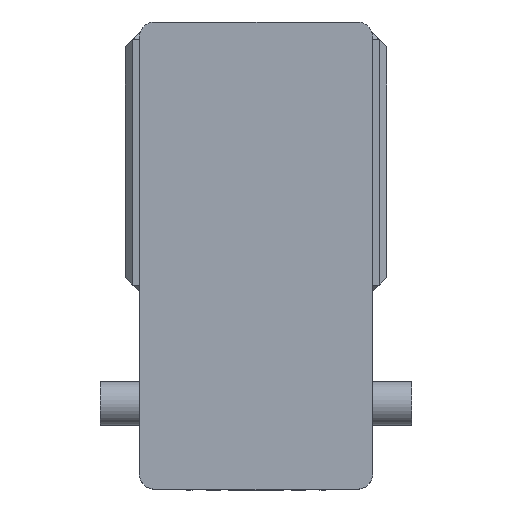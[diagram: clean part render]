
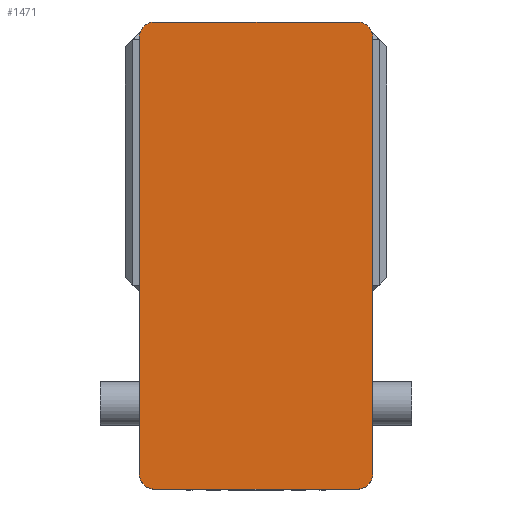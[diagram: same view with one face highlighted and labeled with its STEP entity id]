
A CAD part, left-side view. The second image highlights one B-rep face of the part: STEP entity #1471.
In plain terms, the highlighted planar face has unit normal (-1, 0, 0) as drawn and (0, 0, 1) by its records, which use the part's own axes.
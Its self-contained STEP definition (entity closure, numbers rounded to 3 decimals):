
#5 = CARTESIAN_POINT ( 'NONE',  ( -65., 140., 105. ) ) ;
#160 = DIRECTION ( 'NONE',  ( 1., 0., 0. ) ) ;
#166 = DIRECTION ( 'NONE',  ( 0., 0., 1. ) ) ;
#180 = CARTESIAN_POINT ( 'NONE',  ( 65., 140., 105. ) ) ;
#260 = DIRECTION ( 'NONE',  ( 1., 0., 0. ) ) ;
#282 = DIRECTION ( 'NONE',  ( 0., 0., 1. ) ) ;
#284 = CARTESIAN_POINT ( 'NONE',  ( 65., -140., 105. ) ) ;
#449 = VERTEX_POINT ( 'NONE', #8867 ) ;
#525 = CARTESIAN_POINT ( 'NONE',  ( -75., -150., 105. ) ) ;
#565 = CARTESIAN_POINT ( 'NONE',  ( 65., 150., 105. ) ) ;
#743 = DIRECTION ( 'NONE',  ( 1., 0., 0. ) ) ;
#775 = ORIENTED_EDGE ( 'NONE', *, *, #5308, .T. ) ;
#1184 = DIRECTION ( 'NONE',  ( 0., -1., 0. ) ) ;
#1223 = CARTESIAN_POINT ( 'NONE',  ( -75., 150., 105. ) ) ;
#1403 = CIRCLE ( 'NONE', #10471, 10. ) ;
#1408 = DIRECTION ( 'NONE',  ( 1., 0., 0. ) ) ;
#1471 = ADVANCED_FACE ( 'NONE', ( #1537 ), #2580, .T. ) ;
#1536 = CARTESIAN_POINT ( 'NONE',  ( -75., -140., 105. ) ) ;
#1537 = FACE_OUTER_BOUND ( 'NONE', #2010, .T. ) ;
#1646 = DIRECTION ( 'NONE',  ( 0., 1., 0. ) ) ;
#1686 = CARTESIAN_POINT ( 'NONE',  ( 75., 150., 105. ) ) ;
#1989 = AXIS2_PLACEMENT_3D ( 'NONE', #180, #166, #160 ) ;
#2010 = EDGE_LOOP ( 'NONE', ( #9928, #10359, #2272, #775, #5255, #4389, #2967, #6806 ) ) ;
#2194 = CIRCLE ( 'NONE', #10456, 10. ) ;
#2272 = ORIENTED_EDGE ( 'NONE', *, *, #7477, .T. ) ;
#2517 = CARTESIAN_POINT ( 'NONE',  ( 0., 0., 105. ) ) ;
#2580 = PLANE ( 'NONE',  #5503 ) ;
#2593 = DIRECTION ( 'NONE',  ( 1., 0., 0. ) ) ;
#2595 = DIRECTION ( 'NONE',  ( 0., 0., 1. ) ) ;
#2723 = CIRCLE ( 'NONE', #1989, 10. ) ;
#2967 = ORIENTED_EDGE ( 'NONE', *, *, #5224, .T. ) ;
#3009 = CARTESIAN_POINT ( 'NONE',  ( 65., -150., 105. ) ) ;
#3302 = VERTEX_POINT ( 'NONE', #8617 ) ;
#3412 = CIRCLE ( 'NONE', #10480, 10. ) ;
#3842 = VECTOR ( 'NONE', #743, 1000. ) ;
#3972 = LINE ( 'NONE', #525, #3842 ) ;
#4170 = CARTESIAN_POINT ( 'NONE',  ( -65., -140., 105. ) ) ;
#4330 = CARTESIAN_POINT ( 'NONE',  ( -75., 140., 105. ) ) ;
#4389 = ORIENTED_EDGE ( 'NONE', *, *, #5323, .T. ) ;
#4409 = DIRECTION ( 'NONE',  ( 1., 0., 0. ) ) ;
#4689 = DIRECTION ( 'NONE',  ( 0., 0., 1. ) ) ;
#5169 = DIRECTION ( 'NONE',  ( 0., 0., 1. ) ) ;
#5224 = EDGE_CURVE ( 'NONE', #10362, #7034, #7773, .T. ) ;
#5255 = ORIENTED_EDGE ( 'NONE', *, *, #7278, .T. ) ;
#5283 = CARTESIAN_POINT ( 'NONE',  ( 75., 140., 105. ) ) ;
#5287 = EDGE_CURVE ( 'NONE', #449, #6875, #3972, .T. ) ;
#5304 = EDGE_CURVE ( 'NONE', #6875, #6682, #3412, .T. ) ;
#5308 = EDGE_CURVE ( 'NONE', #10171, #5617, #2723, .T. ) ;
#5323 = EDGE_CURVE ( 'NONE', #3302, #10362, #2194, .T. ) ;
#5338 = EDGE_CURVE ( 'NONE', #7034, #449, #1403, .T. ) ;
#5503 = AXIS2_PLACEMENT_3D ( 'NONE', #2517, #2595, #2593 ) ;
#5617 = VERTEX_POINT ( 'NONE', #565 ) ;
#5622 = CARTESIAN_POINT ( 'NONE',  ( 75., -140., 105. ) ) ;
#6682 = VERTEX_POINT ( 'NONE', #5622 ) ;
#6806 = ORIENTED_EDGE ( 'NONE', *, *, #5338, .T. ) ;
#6845 = VECTOR ( 'NONE', #1646, 1000. ) ;
#6875 = VERTEX_POINT ( 'NONE', #3009 ) ;
#6882 = LINE ( 'NONE', #1686, #6845 ) ;
#7034 = VERTEX_POINT ( 'NONE', #1536 ) ;
#7278 = EDGE_CURVE ( 'NONE', #5617, #3302, #7372, .T. ) ;
#7286 = DIRECTION ( 'NONE',  ( -1., 0., 0. ) ) ;
#7304 = VECTOR ( 'NONE', #7286, 1000. ) ;
#7372 = LINE ( 'NONE', #7980, #7304 ) ;
#7477 = EDGE_CURVE ( 'NONE', #6682, #10171, #6882, .T. ) ;
#7540 = VECTOR ( 'NONE', #1184, 1000. ) ;
#7773 = LINE ( 'NONE', #1223, #7540 ) ;
#7980 = CARTESIAN_POINT ( 'NONE',  ( -75., 150., 105. ) ) ;
#8617 = CARTESIAN_POINT ( 'NONE',  ( -65., 150., 105. ) ) ;
#8867 = CARTESIAN_POINT ( 'NONE',  ( -65., -150., 105. ) ) ;
#9928 = ORIENTED_EDGE ( 'NONE', *, *, #5287, .T. ) ;
#10171 = VERTEX_POINT ( 'NONE', #5283 ) ;
#10359 = ORIENTED_EDGE ( 'NONE', *, *, #5304, .T. ) ;
#10362 = VERTEX_POINT ( 'NONE', #4330 ) ;
#10456 = AXIS2_PLACEMENT_3D ( 'NONE', #5, #5169, #4409 ) ;
#10471 = AXIS2_PLACEMENT_3D ( 'NONE', #4170, #4689, #1408 ) ;
#10480 = AXIS2_PLACEMENT_3D ( 'NONE', #284, #282, #260 ) ;
